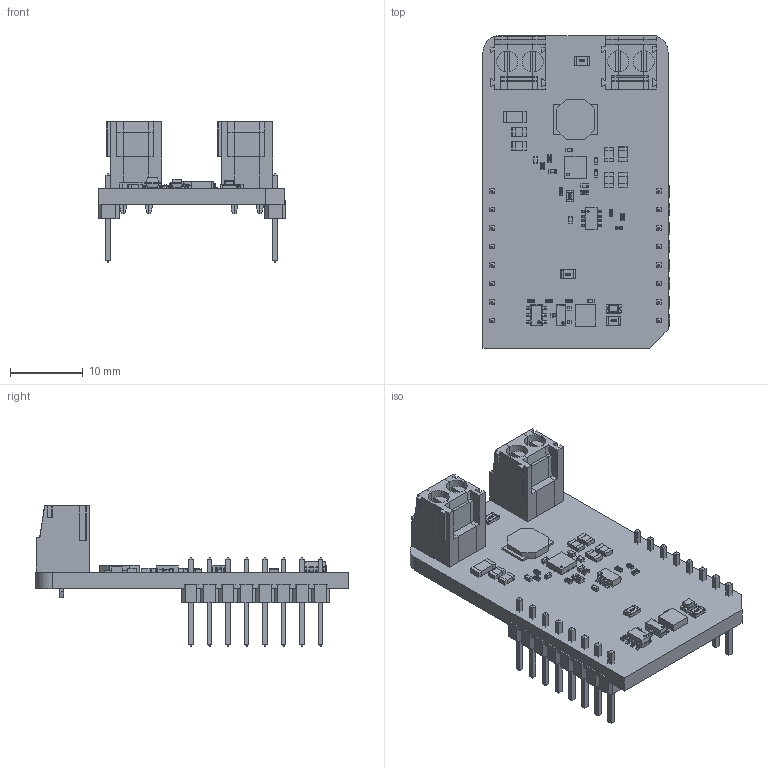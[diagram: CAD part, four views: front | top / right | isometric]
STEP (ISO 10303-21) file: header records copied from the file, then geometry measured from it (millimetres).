
FILE_DESCRIPTION(('Open CASCADE Model'),'2;1');
FILE_NAME('Open CASCADE Shape Model','2026-03-12T14:18:10',('Author'),( 'Open CASCADE'),'Open CASCADE STEP processor 6.8','Open CASCADE 6.8' ,'Unknown');
FILE_SCHEMA(('AUTOMOTIVE_DESIGN { 1 0 10303 214 1 1 1 1 }'));
Length unit declared in the file: millimetre
Products named in the file (71): PCB; Board; R12; User_Library-R_0402; JP2; User_Library-R_0805; R9; U3; QFN-16; TB2; 691214110002S; CPP3.5_SX; CPP3.5_DX; TB1; R11; R10; User_Library-R_0603; R7; R6; C16; User_Library-SMD_CAPACITOR0402; C10; User_Library-SMD_CAPACITOR0805; C11; C12; C13; C15; C14; C7; C6; C3; JP1; LD1; led_0805_green; R1; R5; MBD1; Header_1x8; Free-Models; 1240637040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
Assembly tree (102 placements, depth 7):
  PCB
    Board
    R12
      User_Library-R_0402
    JP2
      User_Library-R_0805
    R9
      User_Library-R_0402
    U3
      QFN-16
    TB2
      691214110002S
        CPP3.5_SX
        691214110002S
        CPP3.5_DX
    TB1
      691214110002S
        CPP3.5_SX
        691214110002S
        CPP3.5_DX
    R11
      User_Library-R_0402
    R10
      User_Library-R_0603
    R7
      User_Library-R_0402
    R6
      User_Library-R_0402
    C16
      User_Library-SMD_CAPACITOR0402
    C10
      User_Library-SMD_CAPACITOR0805
    C11
      User_Library-SMD_CAPACITOR0805
    C12
      User_Library-SMD_CAPACITOR0805
    C13
      User_Library-SMD_CAPACITOR0805
    C15
      User_Library-SMD_CAPACITOR0402
    C14
      User_Library-SMD_CAPACITOR0402
    C7
      User_Library-SMD_CAPACITOR0402
    C6
      User_Library-SMD_CAPACITOR0402
    C3
      User_Library-SMD_CAPACITOR0805
    JP1
      User_Library-R_0805
    LD1
      led_0805_green
    R1
      User_Library-R_0805
    R5
      User_Library-R_0402
    MBD1
      Header_1x8  x2
        PCB
          Free-Models
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Bounding box: 25.78 x 42.93 x 19.26 mm (x, y, z)
Volume: 3657.5 mm3; surface area: 5596.2 mm2
Topology: 106 solids, 106 shells, 3216 faces, 8122 edges, 5132 vertices
Faces by surface type: plane 2292, bspline 431, cylinder 365, sphere 128
Entity records: 46025 total; most frequent: CARTESIAN_POINT 12895, ORIENTED_EDGE 5464, DIRECTION 4872, EDGE_CURVE 2732, LINE 2254, VECTOR 2254, VERTEX_POINT 1760, AXIS2_PLACEMENT_3D 1309
